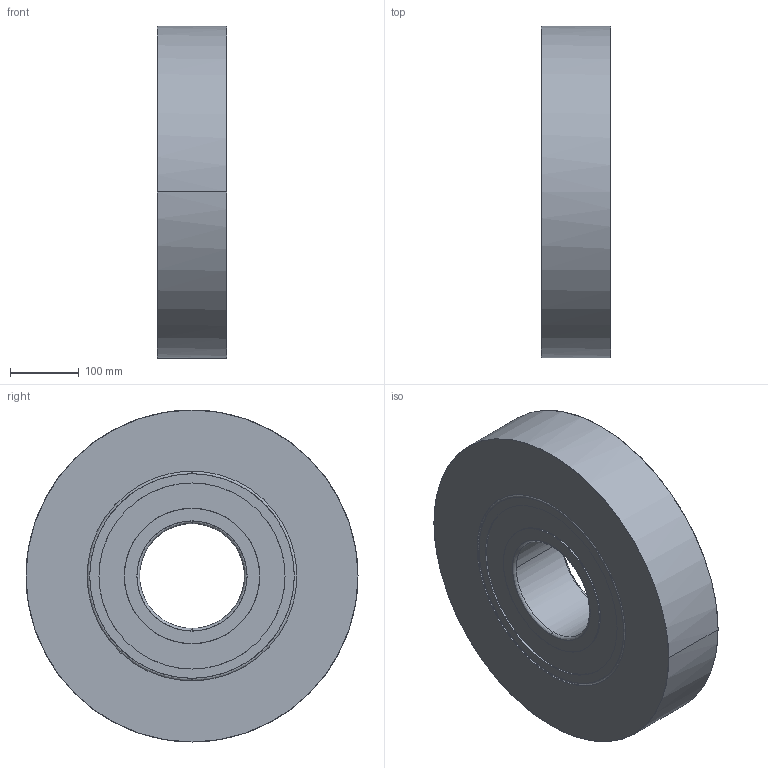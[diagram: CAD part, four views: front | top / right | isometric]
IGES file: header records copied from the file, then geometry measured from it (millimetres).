
Global section: native system: Kubotek KeyCreator; preprocessor: KCM Version 1.1.1442.0; author: KeyCreator User; organization: Self; date: 20170714.090049; units: inch
Bounding box: 101.6 x 482.6 x 482.6 mm (x, y, z)
Surface area: 549514.8 mm2 (no closed solid volume)
Topology: 0 solids, 0 shells, 32 faces, 208 edges, 208 vertices
Faces by surface type: bspline 32
